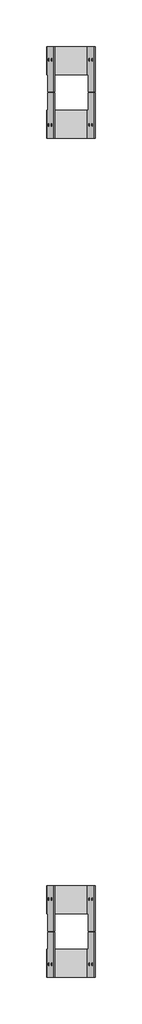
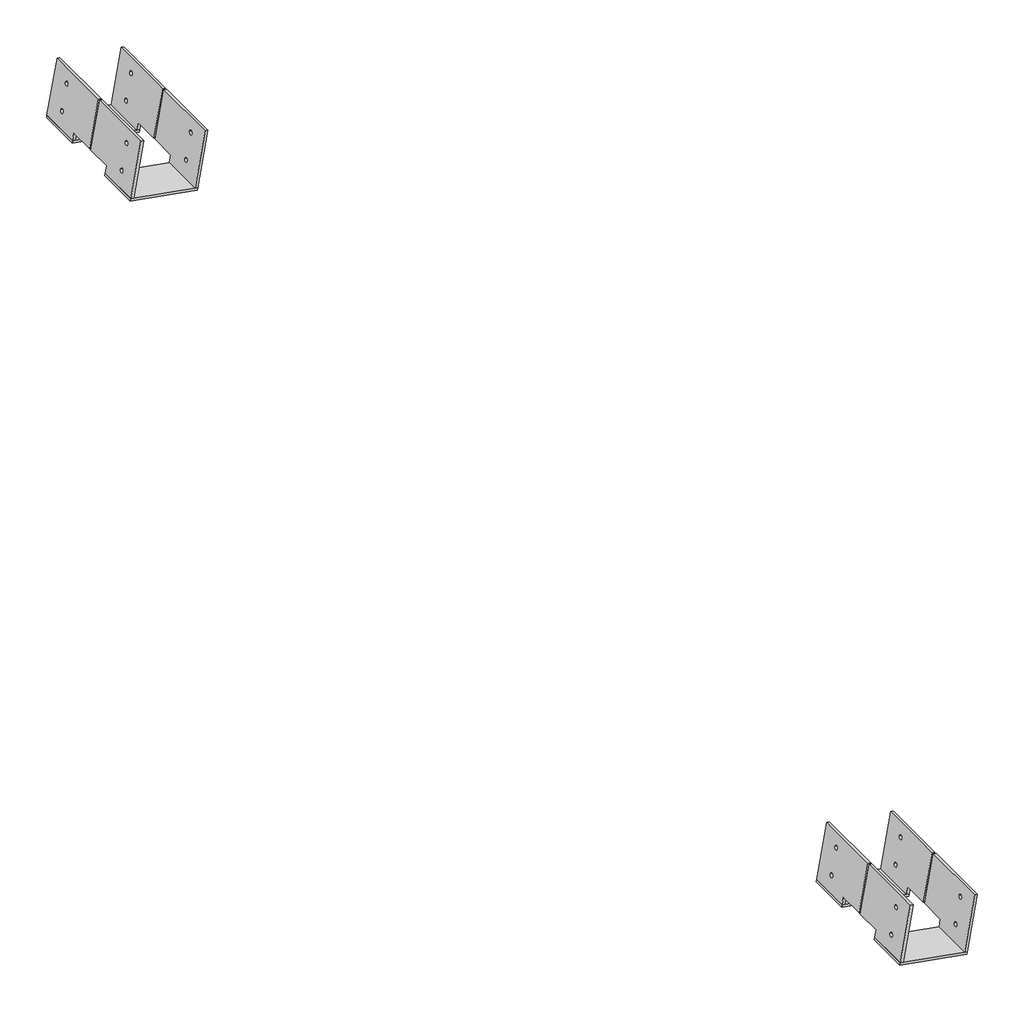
# One storey, incomplete: 12 proxies.
"""IFC4 building model written with IfcOpenShell, lengths in millimetres."""

import ifcopenshell
import ifcopenshell.guid

model = None  # the IFC model being written
_history = None  # IfcOwnerHistory: only IFC2X3 demands one
_inside = {}  # id of a spatial element -> (the spatial element, [elements in it])
_under = {}  # id of a project, library or spatial element -> (it, [spatial elements below it])
_declared = {}  # id of a project -> (the project, [libraries it declares])
_typed = {}  # id of a type object -> (the type object, [elements of that type])
_made_of = {}  # id of a material, layer set ... -> (it, [elements and type objects made of it])


def new_model(schema):
    """Start an empty IFC model of exactly this schema.

    Asked for "IFC4X3", IfcOpenShell would pick the latest addendum, in which some entities
    have other attributes; the version numbers below select the first issue.
    IFC2X3 requires an IfcOwnerHistory on every rooted entity: one is made here for all.
    """
    global model, _history
    if schema == "IFC4X3":
        model = ifcopenshell.file(schema_version=(4, 3, 0, 0))
    else:
        model = ifcopenshell.file(schema=schema)
    _inside.clear()
    _under.clear()
    _declared.clear()
    _typed.clear()
    _made_of.clear()
    _history = None
    if model.schema == "IFC2X3":
        org = make("IfcOrganization", Name="unknown")
        user = make(
            "IfcPersonAndOrganization",
            ThePerson=make("IfcPerson", FamilyName="unknown"),
            TheOrganization=org,
        )
        app = make(
            "IfcApplication",
            ApplicationDeveloper=org,
            Version="unknown",
            ApplicationFullName="unknown",
            ApplicationIdentifier="unknown",
        )
        _history = make(
            "IfcOwnerHistory",
            OwningUser=user,
            OwningApplication=app,
            ChangeAction="ADDED",
            CreationDate=0,
        )
    return model


def make(cls, **values):
    """One entity of the class cls with the attributes given. An attribute that is None is left unset."""
    return model.create_entity(
        cls, **{name: value for name, value in values.items() if value is not None}
    )


def rooted(cls, **values):
    """An entity with a GlobalId (a new one), such as an element, a storey or a relation."""
    return make(cls, GlobalId=ifcopenshell.guid.new(), OwnerHistory=_history, **values)


def si_unit(unit_type, name, prefix=None):
    """IfcSIUnit, for example si_unit("LENGTHUNIT", "METRE", prefix="MILLI")."""
    return make("IfcSIUnit", UnitType=unit_type, Prefix=prefix, Name=name)


def assignment(units):
    """IfcUnitAssignment: the units of a project."""
    return None if units is None else make("IfcUnitAssignment", Units=units)


def point(xyz):
    """IfcCartesianPoint."""
    return None if xyz is None else make("IfcCartesianPoint", Coordinates=xyz)


def direction(xyz):
    """IfcDirection."""
    return None if xyz is None else make("IfcDirection", DirectionRatios=xyz)


def frame(location, z_axis=None, x_axis=None):
    """IfcAxis2Placement3D, a coordinate frame: its origin and axes. An axis left out is left unset."""
    return make(
        "IfcAxis2Placement3D",
        Location=point(location),
        Axis=direction(z_axis),
        RefDirection=direction(x_axis),
    )


def frame_2d(location, x_axis=None):
    """IfcAxis2Placement2D, a coordinate frame in the plane: its origin and x axis."""
    return make(
        "IfcAxis2Placement2D", Location=point(location), RefDirection=direction(x_axis)
    )


def origin():
    """The frame at (0, 0, 0) with its axes left unset."""
    return frame((0.0, 0.0, 0.0))


def place(relative_to, where):
    """IfcLocalPlacement: puts the frame where relative to a parent placement (None: the world)."""
    return make(
        "IfcLocalPlacement", PlacementRelTo=relative_to, RelativePlacement=where
    )


def context(
    kind, dimensions, precision=None, world=None, true_north=None, identifier=None
):
    """IfcGeometricRepresentationContext, for example the 3D "Model" context."""
    return make(
        "IfcGeometricRepresentationContext",
        ContextIdentifier=identifier,
        ContextType=kind,
        CoordinateSpaceDimension=dimensions,
        Precision=precision,
        WorldCoordinateSystem=world,
        TrueNorth=true_north,
    )


def project(units=None, contexts=None):
    """IfcProject with its units and contexts."""
    return rooted(
        "IfcProject",
        Name="project",
        RepresentationContexts=contexts,
        UnitsInContext=assignment(units),
    )


def spatial(cls, under=None, at=None, **own):
    """A site, building, storey or space (cls), placed at a placement, below another one or the project."""
    s = rooted(cls, ObjectPlacement=at, **own)
    if under is not None:
        _under.setdefault(under.id(), (under, []))[1].append(s)
    return s


def polyline(points):
    """IfcPolyline through the points."""
    return make("IfcPolyline", Points=[point(p) for p in points])


def circle_curve(where, radius):
    """IfcCircle in the frame where."""
    return make("IfcCircle", Position=where, Radius=radius)


def trimmed(basis, trim1, trim2, sense, master):
    """IfcTrimmedCurve: the piece of a basis curve between two trims."""
    return make(
        "IfcTrimmedCurve",
        BasisCurve=basis,
        Trim1=trim1,
        Trim2=trim2,
        SenseAgreement=sense,
        MasterRepresentation=master,
    )


def segment(curve, same_sense, transition):
    """IfcCompositeCurveSegment."""
    return make(
        "IfcCompositeCurveSegment",
        Transition=transition,
        SameSense=same_sense,
        ParentCurve=curve,
    )


def composite_curve(segments, self_intersect=None):
    """IfcCompositeCurve: segments joined end to end."""
    return make("IfcCompositeCurve", Segments=segments, SelfIntersect=self_intersect)


def outline(outer, holes=None, kind="AREA"):
    """IfcArbitraryClosedProfileDef: a profile drawn as a closed curve; with holes, ...WithVoids."""
    if holes is None:
        return make("IfcArbitraryClosedProfileDef", ProfileType=kind, OuterCurve=outer)
    return make(
        "IfcArbitraryProfileDefWithVoids",
        ProfileType=kind,
        OuterCurve=outer,
        InnerCurves=holes,
    )


def extrude(swept, where, along, depth):
    """IfcExtrudedAreaSolid: the profile swept, set in the frame where, extruded along a direction by depth."""
    return make(
        "IfcExtrudedAreaSolid",
        SweptArea=swept,
        Position=where,
        ExtrudedDirection=direction(along),
        Depth=depth,
    )


def shape(context_of_items, identifier, shape_type, items):
    """IfcShapeRepresentation: the items that make up one representation, for example the "Body"."""
    return make(
        "IfcShapeRepresentation",
        ContextOfItems=context_of_items,
        RepresentationIdentifier=identifier,
        RepresentationType=shape_type,
        Items=items,
    )


def source(mapping_origin, context_of_items, identifier, shape_type, items):
    """IfcRepresentationMap: a shape defined once, which mapped items show again and again."""
    return make(
        "IfcRepresentationMap",
        MappingOrigin=mapping_origin,
        MappedRepresentation=shape(context_of_items, identifier, shape_type, items),
    )


def transform(
    local_origin,
    x_axis=None,
    y_axis=None,
    z_axis=None,
    scale=None,
    scale2=None,
    scale3=None,
    uniform=True,
):
    """IfcCartesianTransformationOperator3D, or its non-uniform kind. x_axis, y_axis, z_axis: its Axis1, 2, 3."""
    if uniform:
        return make(
            "IfcCartesianTransformationOperator3D",
            Axis1=direction(x_axis),
            Axis2=direction(y_axis),
            LocalOrigin=point(local_origin),
            Scale=scale,
            Axis3=direction(z_axis),
        )
    return make(
        "IfcCartesianTransformationOperator3DnonUniform",
        Axis1=direction(x_axis),
        Axis2=direction(y_axis),
        LocalOrigin=point(local_origin),
        Scale=scale,
        Axis3=direction(z_axis),
        Scale2=scale2,
        Scale3=scale3,
    )


def mapped(mapping_source, mapping_target):
    """IfcMappedItem: shows the shape of a source again, moved by a transform."""
    return make(
        "IfcMappedItem", MappingSource=mapping_source, MappingTarget=mapping_target
    )


def made_of(thing, what):
    """Note that an element or type object is made of a material, layer set ...; save() writes the relation."""
    if what is not None:
        _made_of.setdefault(what.id(), (what, []))[1].append(thing)
    return thing


def element(
    cls,
    number,
    at=None,
    inside=None,
    cuts=None,
    type_object=None,
    material=None,
    context=None,
    identifier="Body",
    shape_type=None,
    held_by="IfcProductDefinitionShape",
    body=None,
    shapes=None,
    **own,
):
    """One element of the class cls, such as IfcWall. Its Tag is "e" and its number.

    at: its placement. inside: the storey or other place that contains it. cuts: it is an
    opening in that element (IfcRelVoidsElement). A single representation is given by context,
    identifier, shape_type and body (its items); several are given by shapes. held_by: the class
    of the entity that holds the representations. save() writes the other relations.
    """
    e = rooted(cls, Tag="e%d" % number, ObjectPlacement=at, **own)
    if body is not None:
        shapes = [shape(context, identifier, shape_type, body)]
    if shapes is not None:
        e.Representation = make(held_by, Representations=shapes)
    if inside is not None:
        _inside.setdefault(inside.id(), (inside, []))[1].append(e)
    if cuts is not None:
        rooted(
            "IfcRelVoidsElement", RelatingBuildingElement=cuts, RelatedOpeningElement=e
        )
    if type_object is not None:
        _typed.setdefault(type_object.id(), (type_object, []))[1].append(e)
    return made_of(e, material)


def aggregate(whole, parts):
    """IfcRelAggregates: a whole, such as a stair, and the parts it consists of."""
    return rooted("IfcRelAggregates", RelatingObject=whole, RelatedObjects=parts)


def save(model, path):
    """Write the relations noted so far, then the file.

    IfcRelAggregates (storeys below a building ...), IfcRelContainedInSpatialStructure (elements
    in a storey), IfcRelDefinesByType, IfcRelAssociatesMaterial and IfcRelDeclares: one each for
    every whole, place, type object, material and project.
    """
    for whole, parts in _under.values():
        aggregate(whole, parts)
    for where, things in _inside.values():
        rooted(
            "IfcRelContainedInSpatialStructure",
            RelatedElements=things,
            RelatingStructure=where,
        )
    for kind, things in _typed.values():
        rooted("IfcRelDefinesByType", RelatedObjects=things, RelatingType=kind)
    for what, things in _made_of.values():
        rooted("IfcRelAssociatesMaterial", RelatedObjects=things, RelatingMaterial=what)
    for by, libraries in _declared.values():
        rooted("IfcRelDeclares", RelatingContext=by, RelatedDefinitions=libraries)
    model.write(path)


def fin_plate_purlin_beam_connection_base_plate_fin_plate_purlin_f1d1ecae(model_context):
    return source(origin(), model_context, "Body", "SweptSolid", [
        extrude(outline(polyline([(0.0, -160.0), (0.0, 0.0), (245.0, 0.0), (245.0, -160.0), (0.0, -160.0)])), frame((-31958.5886145, 11313.6549517, 3241.7802983), z_axis=(0.17364817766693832, 0.0, 0.9848077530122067), x_axis=(0.9848077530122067, 0.0, -0.17364817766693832)), (0.0, 0.0, 1.0), 8.8039089),
    ])


def fin_plate_purlin_beam_connection_base_plate1_fin_plate_b6dfa297(model_context):
    return source(origin(), model_context, "Body", "SweptSolid", [
        extrude(outline(polyline([(0.0, -160.0), (0.0, 0.0), (245.0, 0.0), (245.0, -160.0), (0.0, -160.0)])), frame((-31958.5886145, 10950.0549517, 3241.7802983), z_axis=(0.1736481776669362, 0.0, 0.9848077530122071), x_axis=(0.9848077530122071, 0.0, -0.1736481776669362)), (0.0, 0.0, 1.0), 8.8039089),
    ])


def fin_plate_purlin_beam_connection_base_plate3_fin_plate_3f60e863(model_context):
    return source(origin(), model_context, "Body", "SweptSolid", [
        extrude(outline(polyline([(0.0, -160.0), (0.0, 0.0), (245.0, 0.0), (245.0, -160.0), (0.0, -160.0)])), frame((-31958.5886145, 16116.223117, 3241.7802983), z_axis=(0.17364817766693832, 0.0, 0.9848077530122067), x_axis=(0.9848077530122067, 0.0, -0.17364817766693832)), (0.0, 0.0, 1.0), 8.8039089),
    ])


def fin_plate_purlin_beam_connection_base_plate4_fin_plate_a350485e(model_context):
    return source(origin(), model_context, "Body", "SweptSolid", [
        extrude(outline(polyline([(0.0, -160.0), (0.0, 0.0), (245.0, 0.0), (245.0, -160.0), (0.0, -160.0)])), frame((-31958.5886145, 15752.623117, 3241.7802983), z_axis=(0.1736481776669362, 0.0, 0.9848077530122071), x_axis=(0.9848077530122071, 0.0, -0.1736481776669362)), (0.0, 0.0, 1.0), 8.8039089),
    ])


def fin_plate_purlin_beam_connection10_fin_plate_purlin_beam_caf90ba1(model_context):
    return source(origin(), model_context, "Body", "SweptSolid", [
        extrude(outline(polyline([(0.0, 0.0), (0.0, -181.2383863), (-258.2, -181.2383863), (-258.2, 27.7176621), (-98.2, 27.7176621), (-98.2, 0.0), (0.0, 0.0)]), holes=[composite_curve([segment(trimmed(circle_curve(frame_2d((-183.2, -131.2383863)), 8.0), [point((-175.2, -131.2383863))], [point((-191.2, -131.2383863))], True, "CARTESIAN"), True, "CONTINUOUS"), segment(trimmed(circle_curve(frame_2d((-183.2, -131.2383863)), 8.0), [point((-191.2, -131.2383863))], [point((-175.2, -131.2383863))], True, "CARTESIAN"), True, "CONTINUOUS")], self_intersect=False), composite_curve([segment(trimmed(circle_curve(frame_2d((-183.2, -31.2383863)), 8.0), [point((-175.2, -31.2383863))], [point((-191.2, -31.2383863))], True, "CARTESIAN"), True, "CONTINUOUS"), segment(trimmed(circle_curve(frame_2d((-183.2, -31.2383863)), 8.0), [point((-191.2, -31.2383863))], [point((-175.2, -31.2383863))], True, "CARTESIAN"), True, "CONTINUOUS")], self_intersect=False)]), frame((-31710.9687014, 15850.823117, 3235.2038409), z_axis=(-0.9848077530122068, 0.0, 0.17364817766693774), x_axis=(0.0, 1.0, 0.0)), (0.0, 0.0, 1.0), 10.0),
    ])


def fin_plate_purlin_beam_connection11_fin_plate_purlin_beam_1faf306a(model_context):
    return source(origin(), model_context, "Body", "SweptSolid", [
        extrude(outline(polyline([(0.0, 0.0), (0.0, -181.2383862), (-258.2, -181.2383862), (-258.2, 27.7176621), (-98.2, 27.7176621), (-98.2, 0.0), (0.0, 0.0)]), holes=[composite_curve([segment(trimmed(circle_curve(frame_2d((-183.2, -131.2383863)), 8.0), [point((-175.2, -131.2383863))], [point((-191.2, -131.2383863))], True, "CARTESIAN"), True, "CONTINUOUS"), segment(trimmed(circle_curve(frame_2d((-183.2, -131.2383863)), 8.0), [point((-191.2, -131.2383863))], [point((-175.2, -131.2383863))], True, "CARTESIAN"), True, "CONTINUOUS")], self_intersect=False), composite_curve([segment(trimmed(circle_curve(frame_2d((-183.2, -31.2383863)), 8.0), [point((-175.2, -31.2383863))], [point((-191.2, -31.2383863))], True, "CARTESIAN"), True, "CONTINUOUS"), segment(trimmed(circle_curve(frame_2d((-183.2, -31.2383863)), 8.0), [point((-191.2, -31.2383863))], [point((-175.2, -31.2383863))], True, "CARTESIAN"), True, "CONTINUOUS")], self_intersect=False)]), frame((-31942.3985234, 15850.823117, 3276.0111627), z_axis=(-0.9848077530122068, 0.0, 0.17364817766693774), x_axis=(0.0, 1.0, 0.0)), (0.0, 0.0, 1.0), 10.0),
    ])


def fin_plate_purlin_beam_connection2_fin_plate_purlin_beam_d2efce1f(model_context):
    return source(origin(), model_context, "Body", "SweptSolid", [
        extrude(outline(polyline([(0.0, 0.0), (0.0, -181.2383863), (-258.2, -181.2383863), (-258.2, 27.7176621), (-98.2, 27.7176621), (-98.2, 0.0), (0.0, 0.0)]), holes=[composite_curve([segment(trimmed(circle_curve(frame_2d((-183.2, -131.2383863)), 8.0), [point((-175.2, -131.2383863))], [point((-191.2, -131.2383863))], True, "CARTESIAN"), True, "CONTINUOUS"), segment(trimmed(circle_curve(frame_2d((-183.2, -131.2383863)), 8.0), [point((-191.2, -131.2383863))], [point((-175.2, -131.2383863))], True, "CARTESIAN"), True, "CONTINUOUS")], self_intersect=False), composite_curve([segment(trimmed(circle_curve(frame_2d((-183.2, -31.2383863)), 8.0), [point((-175.2, -31.2383863))], [point((-191.2, -31.2383863))], True, "CARTESIAN"), True, "CONTINUOUS"), segment(trimmed(circle_curve(frame_2d((-183.2, -31.2383863)), 8.0), [point((-191.2, -31.2383863))], [point((-175.2, -31.2383863))], True, "CARTESIAN"), True, "CONTINUOUS")], self_intersect=False)]), frame((-31710.9687014, 11048.2549517, 3235.2038409), z_axis=(-0.9848077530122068, 0.0, 0.17364817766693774), x_axis=(0.0, 1.0, 0.0)), (0.0, 0.0, 1.0), 10.0),
    ])


def fin_plate_purlin_beam_connection3_fin_plate_purlin_beam_2e45daf0(model_context):
    return source(origin(), model_context, "Body", "SweptSolid", [
        extrude(outline(polyline([(0.0, 0.0), (0.0, -181.2383862), (-258.2, -181.2383862), (-258.2, 27.7176621), (-98.2, 27.7176621), (-98.2, 0.0), (0.0, 0.0)]), holes=[composite_curve([segment(trimmed(circle_curve(frame_2d((-183.2, -131.2383863)), 8.0), [point((-175.2, -131.2383863))], [point((-191.2, -131.2383863))], True, "CARTESIAN"), True, "CONTINUOUS"), segment(trimmed(circle_curve(frame_2d((-183.2, -131.2383863)), 8.0), [point((-191.2, -131.2383863))], [point((-175.2, -131.2383863))], True, "CARTESIAN"), True, "CONTINUOUS")], self_intersect=False), composite_curve([segment(trimmed(circle_curve(frame_2d((-183.2, -31.2383863)), 8.0), [point((-175.2, -31.2383863))], [point((-191.2, -31.2383863))], True, "CARTESIAN"), True, "CONTINUOUS"), segment(trimmed(circle_curve(frame_2d((-183.2, -31.2383863)), 8.0), [point((-191.2, -31.2383863))], [point((-175.2, -31.2383863))], True, "CARTESIAN"), True, "CONTINUOUS")], self_intersect=False)]), frame((-31942.3985234, 11048.2549517, 3276.0111627), z_axis=(-0.9848077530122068, 0.0, 0.17364817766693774), x_axis=(0.0, 1.0, 0.0)), (0.0, 0.0, 1.0), 10.0),
    ])


def fin_plate_purlin_beam_connection4_fin_plate_purlin_beam_8298a95b(model_context):
    return source(origin(), model_context, "Body", "SweptSolid", [
        extrude(outline(polyline([(181.2383862, 0.0), (181.2383862, -98.2), (208.9560483, -98.2), (208.9560483, -258.2), (0.0, -258.2), (0.0, 0.0), (181.2383862, 0.0)]), holes=[composite_curve([segment(trimmed(circle_curve(frame_2d((50.0, -183.2)), 8.0), [point((50.0, -175.2))], [point((50.0, -191.2))], True, "CARTESIAN"), True, "CONTINUOUS"), segment(trimmed(circle_curve(frame_2d((50.0, -183.2)), 8.0), [point((50.0, -191.2))], [point((50.0, -175.2))], True, "CARTESIAN"), True, "CONTINUOUS")], self_intersect=False), composite_curve([segment(trimmed(circle_curve(frame_2d((149.9999999, -183.2)), 8.0), [point((149.9999999, -175.2))], [point((149.9999999, -191.2))], True, "CARTESIAN"), True, "CONTINUOUS"), segment(trimmed(circle_curve(frame_2d((149.9999999, -183.2)), 8.0), [point((149.9999999, -191.2))], [point((149.9999999, -175.2))], True, "CARTESIAN"), True, "CONTINUOUS")], self_intersect=False)]), frame((-31910.9268079, 11055.4549517, 3454.4961306), z_axis=(-0.9848077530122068, 0.0, 0.17364817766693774), x_axis=(-0.17364817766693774, 0.0, -0.9848077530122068)), (0.0, 0.0, 1.0), 10.0),
    ])


def fin_plate_purlin_beam_connection5_fin_plate_purlin_beam_ecca5aeb(model_context):
    return source(origin(), model_context, "Body", "SweptSolid", [
        extrude(outline(polyline([(181.2383863, 0.0), (181.2383863, -98.2), (208.9560484, -98.2), (208.9560484, -258.2), (0.0, -258.2), (0.0, 0.0), (181.2383863, 0.0)]), holes=[composite_curve([segment(trimmed(circle_curve(frame_2d((50.0000001, -183.2)), 8.0), [point((50.0000001, -175.2))], [point((50.0000001, -191.2))], True, "CARTESIAN"), True, "CONTINUOUS"), segment(trimmed(circle_curve(frame_2d((50.0000001, -183.2)), 8.0), [point((50.0000001, -191.2))], [point((50.0000001, -175.2))], True, "CARTESIAN"), True, "CONTINUOUS")], self_intersect=False), composite_curve([segment(trimmed(circle_curve(frame_2d((150.0000001, -183.2)), 8.0), [point((150.0000001, -175.2))], [point((150.0000001, -191.2))], True, "CARTESIAN"), True, "CONTINUOUS"), segment(trimmed(circle_curve(frame_2d((150.0000001, -183.2)), 8.0), [point((150.0000001, -191.2))], [point((150.0000001, -175.2))], True, "CARTESIAN"), True, "CONTINUOUS")], self_intersect=False)]), frame((-31679.4969859, 11055.4549517, 3413.6888089), z_axis=(-0.9848077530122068, 0.0, 0.17364817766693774), x_axis=(-0.17364817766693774, 0.0, -0.9848077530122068)), (0.0, 0.0, 1.0), 10.0),
    ])


def fin_plate_purlin_beam_connection8_fin_plate_purlin_beam_56eb9431(model_context):
    return source(origin(), model_context, "Body", "SweptSolid", [
        extrude(outline(polyline([(181.2383863, 0.0), (181.2383863, -98.2), (208.9560484, -98.2), (208.9560484, -258.2), (0.0, -258.2), (0.0, 0.0), (181.2383863, 0.0)]), holes=[composite_curve([segment(trimmed(circle_curve(frame_2d((50.0000001, -183.2)), 8.0), [point((50.0000001, -175.2))], [point((50.0000001, -191.2))], True, "CARTESIAN"), True, "CONTINUOUS"), segment(trimmed(circle_curve(frame_2d((50.0000001, -183.2)), 8.0), [point((50.0000001, -191.2))], [point((50.0000001, -175.2))], True, "CARTESIAN"), True, "CONTINUOUS")], self_intersect=False), composite_curve([segment(trimmed(circle_curve(frame_2d((150.0000001, -183.2)), 8.0), [point((150.0000001, -175.2))], [point((150.0000001, -191.2))], True, "CARTESIAN"), True, "CONTINUOUS"), segment(trimmed(circle_curve(frame_2d((150.0000001, -183.2)), 8.0), [point((150.0000001, -191.2))], [point((150.0000001, -175.2))], True, "CARTESIAN"), True, "CONTINUOUS")], self_intersect=False)]), frame((-31679.4969859, 15858.023117, 3413.6888089), z_axis=(-0.9848077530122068, 0.0, 0.17364817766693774), x_axis=(-0.17364817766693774, 0.0, -0.9848077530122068)), (0.0, 0.0, 1.0), 10.0),
    ])


def fin_plate_purlin_beam_connection9_fin_plate_purlin_beam_9cc1f38e(model_context):
    return source(origin(), model_context, "Body", "SweptSolid", [
        extrude(outline(polyline([(181.2383862, 0.0), (181.2383862, -98.2), (208.9560483, -98.2), (208.9560483, -258.2), (0.0, -258.2), (0.0, 0.0), (181.2383862, 0.0)]), holes=[composite_curve([segment(trimmed(circle_curve(frame_2d((50.0, -183.2)), 8.0), [point((50.0, -175.2))], [point((50.0, -191.2))], True, "CARTESIAN"), True, "CONTINUOUS"), segment(trimmed(circle_curve(frame_2d((50.0, -183.2)), 8.0), [point((50.0, -191.2))], [point((50.0, -175.2))], True, "CARTESIAN"), True, "CONTINUOUS")], self_intersect=False), composite_curve([segment(trimmed(circle_curve(frame_2d((149.9999999, -183.2)), 8.0), [point((149.9999999, -175.2))], [point((149.9999999, -191.2))], True, "CARTESIAN"), True, "CONTINUOUS"), segment(trimmed(circle_curve(frame_2d((149.9999999, -183.2)), 8.0), [point((149.9999999, -191.2))], [point((149.9999999, -175.2))], True, "CARTESIAN"), True, "CONTINUOUS")], self_intersect=False)]), frame((-31910.9268079, 15858.023117, 3454.4961306), z_axis=(-0.9848077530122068, 0.0, 0.17364817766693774), x_axis=(-0.17364817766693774, 0.0, -0.9848077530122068)), (0.0, 0.0, 1.0), 10.0),
    ])


model = new_model("IFC4")

# Units and contexts
model_context = context("Model", 3, world=origin())
ifc_project = project(units=[si_unit("LENGTHUNIT", "METRE", prefix="MILLI")], contexts=[model_context])

# Site, building, storey
site = spatial("IfcSite", under=ifc_project)
building = spatial("IfcBuilding", under=site)
storey = spatial("IfcBuildingStorey", under=building, Name="External Yard Canopy u/s roof", Elevation=2462.0)

# Proxies
placement = place(None, origin())
fin_plate_purlin_beam_connection_base_plate_fin_plate_purlin_shape = fin_plate_purlin_beam_connection_base_plate_fin_plate_purlin_f1d1ecae(model_context)
element("IfcBuildingElementProxy", 1, Name="Fin Plate - Purlin Beam Connection Base Plate : Fin Plate - Purlin Beam Connection Base Plate", ObjectType="Fin Plate - Purlin Beam Connection Base Plate : Fin Plate - Purlin Beam Connection Base Plate", at=placement, inside=storey, context=model_context, shape_type="MappedRepresentation", body=[
    mapped(fin_plate_purlin_beam_connection_base_plate_fin_plate_purlin_shape, transform((0.0, 0.0, 0.0), x_axis=(1.0, 0.0, 0.0), y_axis=(0.0, 1.0, 0.0), z_axis=(0.0, 0.0, 1.0))),
])
fin_plate_purlin_beam_connection_base_plate1_fin_plate_shape = fin_plate_purlin_beam_connection_base_plate1_fin_plate_b6dfa297(model_context)
element("IfcBuildingElementProxy", 2, Name="Fin Plate - Purlin Beam Connection Base Plate1 : Fin Plate - Purlin Beam Connection Base Plate", ObjectType="Fin Plate - Purlin Beam Connection Base Plate1 : Fin Plate - Purlin Beam Connection Base Plate", at=placement, inside=storey, context=model_context, shape_type="MappedRepresentation", body=[
    mapped(fin_plate_purlin_beam_connection_base_plate1_fin_plate_shape, transform((0.0, 0.0, 0.0), x_axis=(1.0, 0.0, 0.0), y_axis=(0.0, 1.0, 0.0), z_axis=(0.0, 0.0, 1.0))),
])
fin_plate_purlin_beam_connection_base_plate3_fin_plate_shape = fin_plate_purlin_beam_connection_base_plate3_fin_plate_3f60e863(model_context)
element("IfcBuildingElementProxy", 3, Name="Fin Plate - Purlin Beam Connection Base Plate3 : Fin Plate - Purlin Beam Connection Base Plate", ObjectType="Fin Plate - Purlin Beam Connection Base Plate3 : Fin Plate - Purlin Beam Connection Base Plate", at=placement, inside=storey, context=model_context, shape_type="MappedRepresentation", body=[
    mapped(fin_plate_purlin_beam_connection_base_plate3_fin_plate_shape, transform((0.0, 0.0, 0.0), x_axis=(1.0, 0.0, 0.0), y_axis=(0.0, 1.0, 0.0), z_axis=(0.0, 0.0, 1.0))),
])
fin_plate_purlin_beam_connection_base_plate4_fin_plate_shape = fin_plate_purlin_beam_connection_base_plate4_fin_plate_a350485e(model_context)
element("IfcBuildingElementProxy", 4, Name="Fin Plate - Purlin Beam Connection Base Plate4 : Fin Plate - Purlin Beam Connection Base Plate", ObjectType="Fin Plate - Purlin Beam Connection Base Plate4 : Fin Plate - Purlin Beam Connection Base Plate", at=placement, inside=storey, context=model_context, shape_type="MappedRepresentation", body=[
    mapped(fin_plate_purlin_beam_connection_base_plate4_fin_plate_shape, transform((0.0, 0.0, 0.0), x_axis=(1.0, 0.0, 0.0), y_axis=(0.0, 1.0, 0.0), z_axis=(0.0, 0.0, 1.0))),
])
fin_plate_purlin_beam_connection10_fin_plate_purlin_beam_shape = fin_plate_purlin_beam_connection10_fin_plate_purlin_beam_caf90ba1(model_context)
element("IfcBuildingElementProxy", 5, Name="Fin Plate Purlin Beam Connection10 : Fin Plate Purlin Beam Connection", ObjectType="Fin Plate Purlin Beam Connection10 : Fin Plate Purlin Beam Connection", at=placement, inside=storey, context=model_context, shape_type="MappedRepresentation", body=[
    mapped(fin_plate_purlin_beam_connection10_fin_plate_purlin_beam_shape, transform((0.0, 0.0, 0.0), x_axis=(1.0, 0.0, 0.0), y_axis=(0.0, 1.0, 0.0), z_axis=(0.0, 0.0, 1.0))),
])
fin_plate_purlin_beam_connection11_fin_plate_purlin_beam_shape = fin_plate_purlin_beam_connection11_fin_plate_purlin_beam_1faf306a(model_context)
element("IfcBuildingElementProxy", 6, Name="Fin Plate Purlin Beam Connection11 : Fin Plate Purlin Beam Connection", ObjectType="Fin Plate Purlin Beam Connection11 : Fin Plate Purlin Beam Connection", at=placement, inside=storey, context=model_context, shape_type="MappedRepresentation", body=[
    mapped(fin_plate_purlin_beam_connection11_fin_plate_purlin_beam_shape, transform((0.0, 0.0, 0.0), x_axis=(1.0, 0.0, 0.0), y_axis=(0.0, 1.0, 0.0), z_axis=(0.0, 0.0, 1.0))),
])
fin_plate_purlin_beam_connection2_fin_plate_purlin_beam_shape = fin_plate_purlin_beam_connection2_fin_plate_purlin_beam_d2efce1f(model_context)
element("IfcBuildingElementProxy", 7, Name="Fin Plate Purlin Beam Connection2 : Fin Plate Purlin Beam Connection", ObjectType="Fin Plate Purlin Beam Connection2 : Fin Plate Purlin Beam Connection", at=placement, inside=storey, context=model_context, shape_type="MappedRepresentation", body=[
    mapped(fin_plate_purlin_beam_connection2_fin_plate_purlin_beam_shape, transform((0.0, 0.0, 0.0), x_axis=(1.0, 0.0, 0.0), y_axis=(0.0, 1.0, 0.0), z_axis=(0.0, 0.0, 1.0))),
])
fin_plate_purlin_beam_connection3_fin_plate_purlin_beam_shape = fin_plate_purlin_beam_connection3_fin_plate_purlin_beam_2e45daf0(model_context)
element("IfcBuildingElementProxy", 8, Name="Fin Plate Purlin Beam Connection3 : Fin Plate Purlin Beam Connection", ObjectType="Fin Plate Purlin Beam Connection3 : Fin Plate Purlin Beam Connection", at=placement, inside=storey, context=model_context, shape_type="MappedRepresentation", body=[
    mapped(fin_plate_purlin_beam_connection3_fin_plate_purlin_beam_shape, transform((0.0, 0.0, 0.0), x_axis=(1.0, 0.0, 0.0), y_axis=(0.0, 1.0, 0.0), z_axis=(0.0, 0.0, 1.0))),
])
fin_plate_purlin_beam_connection4_fin_plate_purlin_beam_shape = fin_plate_purlin_beam_connection4_fin_plate_purlin_beam_8298a95b(model_context)
element("IfcBuildingElementProxy", 9, Name="Fin Plate Purlin Beam Connection4 : Fin Plate Purlin Beam Connection", ObjectType="Fin Plate Purlin Beam Connection4 : Fin Plate Purlin Beam Connection", at=placement, inside=storey, context=model_context, shape_type="MappedRepresentation", body=[
    mapped(fin_plate_purlin_beam_connection4_fin_plate_purlin_beam_shape, transform((0.0, 0.0, 0.0), x_axis=(1.0, 0.0, 0.0), y_axis=(0.0, 1.0, 0.0), z_axis=(0.0, 0.0, 1.0))),
])
fin_plate_purlin_beam_connection5_fin_plate_purlin_beam_shape = fin_plate_purlin_beam_connection5_fin_plate_purlin_beam_ecca5aeb(model_context)
element("IfcBuildingElementProxy", 10, Name="Fin Plate Purlin Beam Connection5 : Fin Plate Purlin Beam Connection", ObjectType="Fin Plate Purlin Beam Connection5 : Fin Plate Purlin Beam Connection", at=placement, inside=storey, context=model_context, shape_type="MappedRepresentation", body=[
    mapped(fin_plate_purlin_beam_connection5_fin_plate_purlin_beam_shape, transform((0.0, 0.0, 0.0), x_axis=(1.0, 0.0, 0.0), y_axis=(0.0, 1.0, 0.0), z_axis=(0.0, 0.0, 1.0))),
])
fin_plate_purlin_beam_connection8_fin_plate_purlin_beam_shape = fin_plate_purlin_beam_connection8_fin_plate_purlin_beam_56eb9431(model_context)
element("IfcBuildingElementProxy", 11, Name="Fin Plate Purlin Beam Connection8 : Fin Plate Purlin Beam Connection", ObjectType="Fin Plate Purlin Beam Connection8 : Fin Plate Purlin Beam Connection", at=placement, inside=storey, context=model_context, shape_type="MappedRepresentation", body=[
    mapped(fin_plate_purlin_beam_connection8_fin_plate_purlin_beam_shape, transform((0.0, 0.0, 0.0), x_axis=(1.0, 0.0, 0.0), y_axis=(0.0, 1.0, 0.0), z_axis=(0.0, 0.0, 1.0))),
])
fin_plate_purlin_beam_connection9_fin_plate_purlin_beam_shape = fin_plate_purlin_beam_connection9_fin_plate_purlin_beam_9cc1f38e(model_context)
element("IfcBuildingElementProxy", 12, Name="Fin Plate Purlin Beam Connection9 : Fin Plate Purlin Beam Connection", ObjectType="Fin Plate Purlin Beam Connection9 : Fin Plate Purlin Beam Connection", at=placement, inside=storey, context=model_context, shape_type="MappedRepresentation", body=[
    mapped(fin_plate_purlin_beam_connection9_fin_plate_purlin_beam_shape, transform((0.0, 0.0, 0.0), x_axis=(1.0, 0.0, 0.0), y_axis=(0.0, 1.0, 0.0), z_axis=(0.0, 0.0, 1.0))),
])

save(model, "model.ifc")
